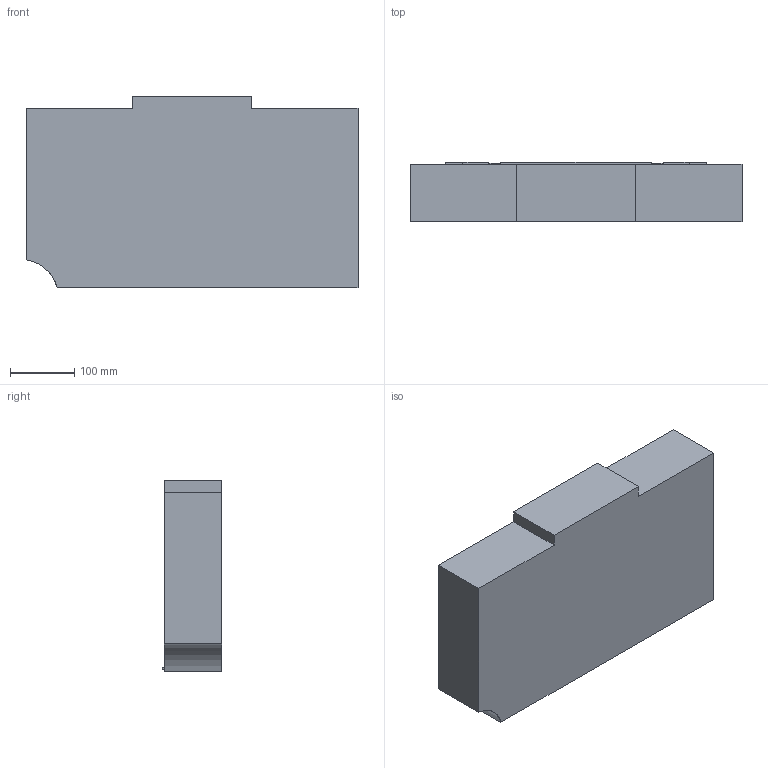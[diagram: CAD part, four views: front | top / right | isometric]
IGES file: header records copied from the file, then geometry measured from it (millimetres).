
Start section: SolidWorks IGES file using analytic representation for surfaces
Global section: file name: C:\working\0450 GMTK\0450 Case, Deep Drawer, OEM.IGS; native system: SolidWorks 2007; preprocessor: SolidWorks 2007; author: darato; date: 090129.170110; units: inch
Bounding box: 515.33 x 91.95 x 297.42 mm (x, y, z)
Surface area: 535369.1 mm2 (no closed solid volume)
Topology: 0 solids, 0 shells, 142 faces, 1168 edges, 1166 vertices
Faces by surface type: bspline 84, revolution 58
